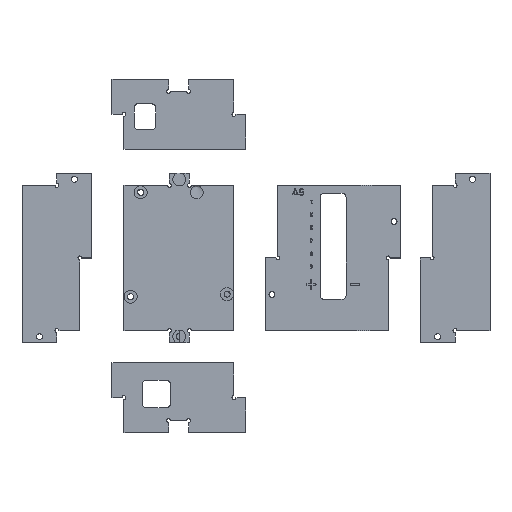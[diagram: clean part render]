
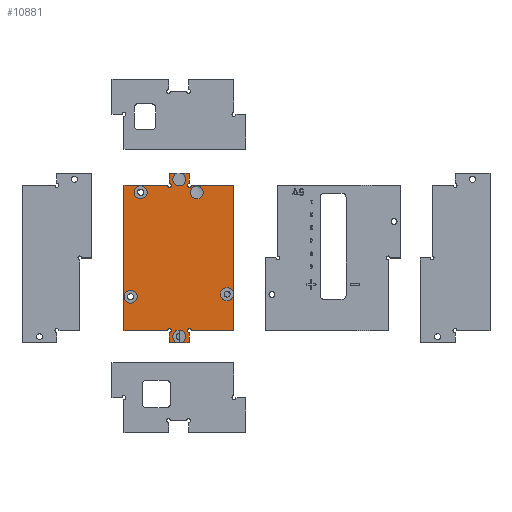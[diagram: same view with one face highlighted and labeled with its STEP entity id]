
A CAD part, top view. The second image highlights one B-rep face of the part: STEP entity #10881.
In plain terms, the highlighted planar face has unit normal (0, 0, 1).
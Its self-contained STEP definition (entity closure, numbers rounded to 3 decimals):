
#169=FACE_BOUND('',#2501,.T.);
#170=FACE_BOUND('',#2502,.T.);
#171=FACE_BOUND('',#2503,.T.);
#172=FACE_BOUND('',#2504,.T.);
#251=CIRCLE('',#11134,3.255);
#252=CIRCLE('',#11135,3.255);
#254=CIRCLE('',#11148,3.255);
#255=CIRCLE('',#11159,3.255);
#270=CIRCLE('',#11187,3.255);
#271=CIRCLE('',#11197,3.255);
#274=CIRCLE('',#11211,3.255);
#275=CIRCLE('',#11221,1.);
#276=CIRCLE('',#11223,1.);
#277=CIRCLE('',#11225,1.);
#278=CIRCLE('',#11227,1.);
#1878=FACE_OUTER_BOUND('',#2500,.T.);
#2500=EDGE_LOOP('',(#9509,#9510,#9511,#9512,#9513,#9514,#9515,#9516,#9517,
#9518,#9519,#9520,#9521,#9522,#9523,#9524,#9525,#9526,#9527,#9528,#9529));
#2501=EDGE_LOOP('',(#9530));
#2502=EDGE_LOOP('',(#9531));
#2503=EDGE_LOOP('',(#9532));
#2504=EDGE_LOOP('',(#9533));
#3144=LINE('',#30946,#3948);
#3148=LINE('',#30953,#3952);
#3167=LINE('',#43335,#3971);
#3171=LINE('',#43342,#3975);
#3263=LINE('',#93037,#4067);
#3264=LINE('',#93039,#4068);
#3266=LINE('',#93043,#4070);
#3267=LINE('',#93046,#4071);
#3268=LINE('',#93047,#4072);
#3269=LINE('',#93048,#4073);
#3270=LINE('',#93049,#4074);
#3271=LINE('',#93051,#4075);
#3272=LINE('',#93052,#4076);
#3273=LINE('',#93053,#4077);
#3948=VECTOR('',#12209,10.);
#3952=VECTOR('',#12213,10.);
#3971=VECTOR('',#12258,10.);
#3975=VECTOR('',#12262,10.);
#4067=VECTOR('',#12496,10.);
#4068=VECTOR('',#12499,10.);
#4070=VECTOR('',#12503,10.);
#4071=VECTOR('',#12506,10.);
#4072=VECTOR('',#12507,10.);
#4073=VECTOR('',#12508,10.);
#4074=VECTOR('',#12509,10.);
#4075=VECTOR('',#12510,10.);
#4076=VECTOR('',#12511,10.);
#4077=VECTOR('',#12512,10.);
#4892=VERTEX_POINT('',#19307);
#4893=VERTEX_POINT('',#19309);
#4894=VERTEX_POINT('',#19311);
#4927=VERTEX_POINT('',#30945);
#4930=VERTEX_POINT('',#30951);
#4940=VERTEX_POINT('',#31715);
#4941=VERTEX_POINT('',#31719);
#4974=VERTEX_POINT('',#43334);
#4977=VERTEX_POINT('',#43340);
#4985=VERTEX_POINT('',#44063);
#5065=VERTEX_POINT('',#56680);
#5103=VERTEX_POINT('',#68963);
#5161=VERTEX_POINT('',#81391);
#5194=VERTEX_POINT('',#93011);
#5195=VERTEX_POINT('',#93012);
#5196=VERTEX_POINT('',#93017);
#5197=VERTEX_POINT('',#93018);
#5198=VERTEX_POINT('',#93023);
#5199=VERTEX_POINT('',#93024);
#5200=VERTEX_POINT('',#93029);
#5201=VERTEX_POINT('',#93030);
#5202=VERTEX_POINT('',#93035);
#5203=VERTEX_POINT('',#93041);
#5204=VERTEX_POINT('',#93045);
#5205=VERTEX_POINT('',#93050);
#6308=EDGE_CURVE('',#4893,#4892,#251,.T.);
#6310=EDGE_CURVE('',#4892,#4894,#252,.T.);
#6361=EDGE_CURVE('',#4927,#4893,#3144,.T.);
#6365=EDGE_CURVE('',#4894,#4930,#3148,.T.);
#6377=EDGE_CURVE('',#4941,#4940,#254,.T.);
#6429=EDGE_CURVE('',#4974,#4941,#3167,.T.);
#6433=EDGE_CURVE('',#4940,#4977,#3171,.T.);
#6442=EDGE_CURVE('',#4985,#4985,#255,.T.);
#6545=EDGE_CURVE('',#5065,#5065,#270,.T.);
#6603=EDGE_CURVE('',#5103,#5103,#271,.T.);
#6681=EDGE_CURVE('',#5161,#5161,#274,.T.);
#6732=EDGE_CURVE('',#5194,#5195,#275,.T.);
#6735=EDGE_CURVE('',#5196,#5197,#276,.T.);
#6738=EDGE_CURVE('',#5198,#5199,#277,.T.);
#6741=EDGE_CURVE('',#5200,#5201,#278,.T.);
#6745=EDGE_CURVE('',#5202,#5199,#3263,.T.);
#6746=EDGE_CURVE('',#4930,#5198,#3264,.T.);
#6748=EDGE_CURVE('',#5201,#5203,#3266,.T.);
#6749=EDGE_CURVE('',#5202,#5204,#3267,.T.);
#6750=EDGE_CURVE('',#5204,#5196,#3268,.T.);
#6751=EDGE_CURVE('',#5197,#4974,#3269,.T.);
#6752=EDGE_CURVE('',#4977,#5200,#3270,.T.);
#6753=EDGE_CURVE('',#5203,#5205,#3271,.T.);
#6754=EDGE_CURVE('',#5194,#5205,#3272,.T.);
#6755=EDGE_CURVE('',#5195,#4927,#3273,.T.);
#9509=ORIENTED_EDGE('',*,*,#6308,.T.);
#9510=ORIENTED_EDGE('',*,*,#6310,.T.);
#9511=ORIENTED_EDGE('',*,*,#6365,.T.);
#9512=ORIENTED_EDGE('',*,*,#6746,.T.);
#9513=ORIENTED_EDGE('',*,*,#6738,.T.);
#9514=ORIENTED_EDGE('',*,*,#6745,.F.);
#9515=ORIENTED_EDGE('',*,*,#6749,.T.);
#9516=ORIENTED_EDGE('',*,*,#6750,.T.);
#9517=ORIENTED_EDGE('',*,*,#6735,.T.);
#9518=ORIENTED_EDGE('',*,*,#6751,.T.);
#9519=ORIENTED_EDGE('',*,*,#6429,.T.);
#9520=ORIENTED_EDGE('',*,*,#6377,.T.);
#9521=ORIENTED_EDGE('',*,*,#6433,.T.);
#9522=ORIENTED_EDGE('',*,*,#6752,.T.);
#9523=ORIENTED_EDGE('',*,*,#6741,.T.);
#9524=ORIENTED_EDGE('',*,*,#6748,.T.);
#9525=ORIENTED_EDGE('',*,*,#6753,.T.);
#9526=ORIENTED_EDGE('',*,*,#6754,.F.);
#9527=ORIENTED_EDGE('',*,*,#6732,.T.);
#9528=ORIENTED_EDGE('',*,*,#6755,.T.);
#9529=ORIENTED_EDGE('',*,*,#6361,.T.);
#9530=ORIENTED_EDGE('',*,*,#6442,.T.);
#9531=ORIENTED_EDGE('',*,*,#6545,.T.);
#9532=ORIENTED_EDGE('',*,*,#6603,.T.);
#9533=ORIENTED_EDGE('',*,*,#6681,.T.);
#10309=PLANE('',#11231);
#10881=ADVANCED_FACE('',(#1878,#169,#170,#171,#172),#10309,.F.);
#11134=AXIS2_PLACEMENT_3D('',#19310,#12171,#12172);
#11135=AXIS2_PLACEMENT_3D('',#19315,#12173,#12174);
#11148=AXIS2_PLACEMENT_3D('',#31720,#12222,#12223);
#11159=AXIS2_PLACEMENT_3D('',#44065,#12266,#12267);
#11187=AXIS2_PLACEMENT_3D('',#56682,#12351,#12352);
#11197=AXIS2_PLACEMENT_3D('',#68965,#12388,#12389);
#11211=AXIS2_PLACEMENT_3D('',#81393,#12435,#12436);
#11221=AXIS2_PLACEMENT_3D('',#93013,#12471,#12472);
#11223=AXIS2_PLACEMENT_3D('',#93019,#12477,#12478);
#11225=AXIS2_PLACEMENT_3D('',#93025,#12483,#12484);
#11227=AXIS2_PLACEMENT_3D('',#93031,#12489,#12490);
#11231=AXIS2_PLACEMENT_3D('',#93044,#12504,#12505);
#12171=DIRECTION('center_axis',(0.,0.,-1.));
#12172=DIRECTION('ref_axis',(0.,-1.,0.));
#12173=DIRECTION('center_axis',(0.,0.,-1.));
#12174=DIRECTION('ref_axis',(0.,-1.,0.));
#12209=DIRECTION('',(1.,0.,0.));
#12213=DIRECTION('',(1.,0.,0.));
#12222=DIRECTION('center_axis',(0.,0.,-1.));
#12223=DIRECTION('ref_axis',(0.,-1.,0.));
#12258=DIRECTION('',(-1.,0.,0.));
#12262=DIRECTION('',(-1.,0.,0.));
#12266=DIRECTION('center_axis',(0.,0.,-1.));
#12267=DIRECTION('ref_axis',(0.,-1.,0.));
#12351=DIRECTION('center_axis',(0.,0.,-1.));
#12352=DIRECTION('ref_axis',(0.,-1.,0.));
#12388=DIRECTION('center_axis',(0.,0.,-1.));
#12389=DIRECTION('ref_axis',(0.,-1.,0.));
#12435=DIRECTION('center_axis',(0.,0.,-1.));
#12436=DIRECTION('ref_axis',(0.,-1.,0.));
#12471=DIRECTION('center_axis',(0.,0.,-1.));
#12472=DIRECTION('ref_axis',(-1.,0.,0.));
#12477=DIRECTION('center_axis',(0.,0.,-1.));
#12478=DIRECTION('ref_axis',(-1.,0.,0.));
#12483=DIRECTION('center_axis',(0.,0.,-1.));
#12484=DIRECTION('ref_axis',(-1.,0.,0.));
#12489=DIRECTION('center_axis',(0.,0.,-1.));
#12490=DIRECTION('ref_axis',(-1.,0.,0.));
#12496=DIRECTION('',(-1.,0.,0.));
#12499=DIRECTION('',(0.,1.,0.));
#12503=DIRECTION('',(-1.,0.,0.));
#12504=DIRECTION('center_axis',(0.,0.,-1.));
#12505=DIRECTION('ref_axis',(-1.,0.,0.));
#12506=DIRECTION('',(0.,1.,0.));
#12507=DIRECTION('',(-1.,0.,0.));
#12508=DIRECTION('',(0.,1.,0.));
#12509=DIRECTION('',(0.,-1.,0.));
#12510=DIRECTION('',(0.,-1.,0.));
#12511=DIRECTION('',(-1.,0.,0.));
#12512=DIRECTION('',(0.,-1.,0.));
#19307=CARTESIAN_POINT('',(30.358,2.255,-1.2));
#19309=CARTESIAN_POINT('',(29.221,-4.05,-1.2));
#19310=CARTESIAN_POINT('Origin',(30.358,-1.,-1.2));
#19311=CARTESIAN_POINT('',(31.496,-4.05,-1.2));
#19315=CARTESIAN_POINT('Origin',(30.358,-1.,-1.2));
#30945=CARTESIAN_POINT('',(25.406,-4.05,-1.2));
#30946=CARTESIAN_POINT('',(35.406,-4.05,-1.2));
#30951=CARTESIAN_POINT('',(35.406,-4.05,-1.2));
#30953=CARTESIAN_POINT('',(35.406,-4.05,-1.2));
#31715=CARTESIAN_POINT('',(29.095,80.6,-1.2));
#31719=CARTESIAN_POINT('',(31.622,80.6,-1.2));
#31720=CARTESIAN_POINT('Origin',(30.358,77.6,-1.2));
#43334=CARTESIAN_POINT('',(35.406,80.6,-1.2));
#43335=CARTESIAN_POINT('',(35.406,80.6,-1.2));
#43340=CARTESIAN_POINT('',(25.406,80.6,-1.2));
#43342=CARTESIAN_POINT('',(35.406,80.6,-1.2));
#44063=CARTESIAN_POINT('',(39.158,74.355,-1.2));
#44065=CARTESIAN_POINT('Origin',(39.158,71.1,-1.2));
#56680=CARTESIAN_POINT('',(11.058,74.355,-1.2));
#56682=CARTESIAN_POINT('Origin',(11.058,71.1,-1.2));
#68963=CARTESIAN_POINT('',(6.058,22.155,-1.2));
#68965=CARTESIAN_POINT('Origin',(6.058,18.9,-1.2));
#81391=CARTESIAN_POINT('',(54.258,23.455,-1.2));
#81393=CARTESIAN_POINT('Origin',(54.258,20.2,-1.2));
#93011=CARTESIAN_POINT('',(24.406,1.95,-1.2));
#93012=CARTESIAN_POINT('',(25.406,0.95,-1.2));
#93013=CARTESIAN_POINT('Origin',(25.406,1.95,-1.2));
#93017=CARTESIAN_POINT('',(36.406,74.6,-1.2));
#93018=CARTESIAN_POINT('',(35.406,75.6,-1.2));
#93019=CARTESIAN_POINT('Origin',(35.406,74.6,-1.2));
#93023=CARTESIAN_POINT('',(35.406,0.95,-1.2));
#93024=CARTESIAN_POINT('',(36.406,1.95,-1.2));
#93025=CARTESIAN_POINT('Origin',(35.406,1.95,-1.2));
#93029=CARTESIAN_POINT('',(25.406,75.6,-1.2));
#93030=CARTESIAN_POINT('',(24.406,74.6,-1.2));
#93031=CARTESIAN_POINT('Origin',(25.406,74.6,-1.2));
#93035=CARTESIAN_POINT('',(57.756,1.95,-1.2));
#93037=CARTESIAN_POINT('',(44.006,1.95,-1.2));
#93039=CARTESIAN_POINT('',(35.406,1.95,-1.2));
#93041=CARTESIAN_POINT('',(2.756,74.6,-1.2));
#93043=CARTESIAN_POINT('',(2.756,74.6,-1.2));
#93044=CARTESIAN_POINT('Origin',(30.256,38.275,-1.2));
#93045=CARTESIAN_POINT('',(57.756,74.6,-1.2));
#93046=CARTESIAN_POINT('',(57.756,74.6,-1.2));
#93047=CARTESIAN_POINT('',(2.756,74.6,-1.2));
#93048=CARTESIAN_POINT('',(35.406,74.6,-1.2));
#93049=CARTESIAN_POINT('',(25.406,80.6,-1.2));
#93050=CARTESIAN_POINT('',(2.756,1.95,-1.2));
#93051=CARTESIAN_POINT('',(2.756,1.95,-1.2));
#93052=CARTESIAN_POINT('',(44.006,1.95,-1.2));
#93053=CARTESIAN_POINT('',(25.406,-4.05,-1.2));
